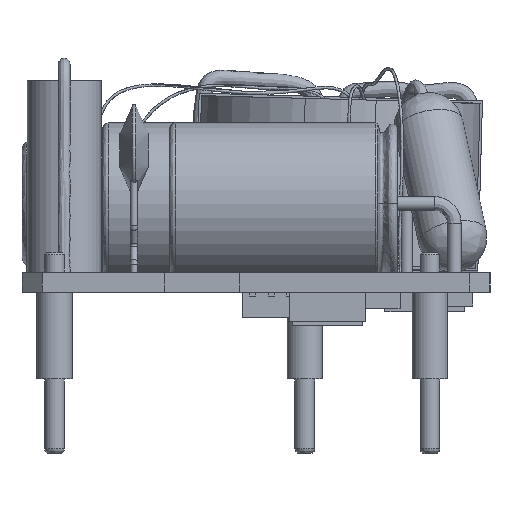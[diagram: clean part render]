
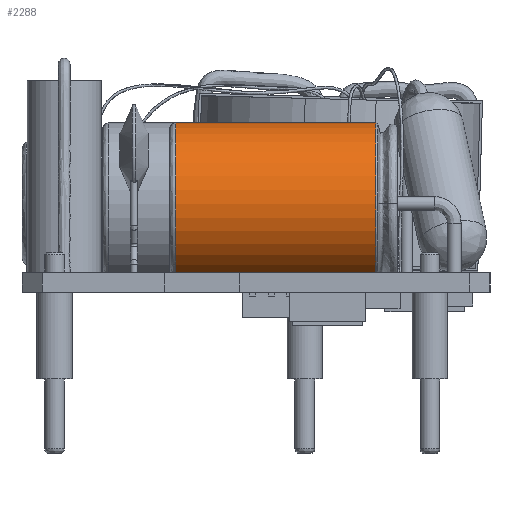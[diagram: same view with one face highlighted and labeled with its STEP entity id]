
A CAD part, left-side view. The second image highlights one B-rep face of the part: STEP entity #2288.
In plain terms, the highlighted cylindrical face has radius 4.09 mm (diameter 8.18 mm), a full revolution.
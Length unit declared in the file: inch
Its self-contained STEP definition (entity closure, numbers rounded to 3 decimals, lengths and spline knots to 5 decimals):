
#8 = FACE_OUTER_BOUND ( 'NONE', #2451, .T. ) ;
#265 = FACE_OUTER_BOUND ( 'NONE', #18617, .T. ) ;
#1423 = VERTEX_POINT ( 'NONE', #7448 ) ;
#1819 = DIRECTION ( 'NONE',  ( 0., 0., 1. ) ) ;
#2288 = ADVANCED_FACE ( 'NONE', ( #265, #8 ), #13268, .T. ) ;
#2451 = EDGE_LOOP ( 'NONE', ( #11355 ) ) ;
#2548 = DIRECTION ( 'NONE',  ( -1., 0., 0. ) ) ;
#2608 = CARTESIAN_POINT ( 'NONE',  ( 0., 0., 0. ) ) ;
#4936 = CIRCLE ( 'NONE', #18790, 0.16102 ) ;
#5069 = VERTEX_POINT ( 'NONE', #10621 ) ;
#6422 = CARTESIAN_POINT ( 'NONE',  ( 0.0422, 0., 0. ) ) ;
#7134 = DIRECTION ( 'NONE',  ( -1., 0., 0. ) ) ;
#7448 = CARTESIAN_POINT ( 'NONE',  ( 0.0422, 0., 0.16102 ) ) ;
#8006 = DIRECTION ( 'NONE',  ( 0., 0., 1. ) ) ;
#8961 = AXIS2_PLACEMENT_3D ( 'NONE', #16356, #7134, #17903 ) ;
#10621 = CARTESIAN_POINT ( 'NONE',  ( 0.44252, 0., 0.16102 ) ) ;
#11355 = ORIENTED_EDGE ( 'NONE', *, *, #19705, .T. ) ;
#12239 = ORIENTED_EDGE ( 'NONE', *, *, #18756, .T. ) ;
#13268 = CYLINDRICAL_SURFACE ( 'NONE', #14608, 0.16102 ) ;
#14565 = CIRCLE ( 'NONE', #8961, 0.16102 ) ;
#14608 = AXIS2_PLACEMENT_3D ( 'NONE', #2608, #2548, #1819 ) ;
#16356 = CARTESIAN_POINT ( 'NONE',  ( 0.44252, 0., 0. ) ) ;
#17200 = DIRECTION ( 'NONE',  ( 1., 0., 0. ) ) ;
#17903 = DIRECTION ( 'NONE',  ( 0., 0., 1. ) ) ;
#18617 = EDGE_LOOP ( 'NONE', ( #12239 ) ) ;
#18756 = EDGE_CURVE ( 'NONE', #1423, #1423, #4936, .T. ) ;
#18790 = AXIS2_PLACEMENT_3D ( 'NONE', #6422, #17200, #8006 ) ;
#19705 = EDGE_CURVE ( 'NONE', #5069, #5069, #14565, .T. ) ;
